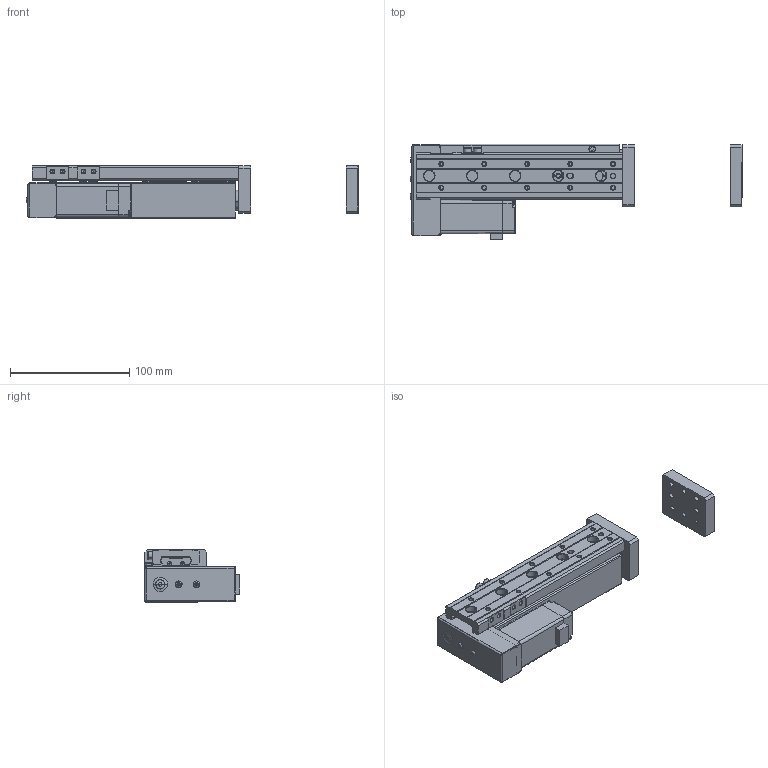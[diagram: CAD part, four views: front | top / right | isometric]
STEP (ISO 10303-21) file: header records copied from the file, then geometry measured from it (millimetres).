
FILE_DESCRIPTION (( 'STEP AP203' ), '1' );
FILE_NAME ('CSS12L-xx-90-xx-CSO-xx-xx.STEP', '2024-10-18T06:22:24', ( 'Windows User' ), ( 'P R C' ), 'SwSTEP 2.0', 'SolidWorks 2018', '' );
FILE_SCHEMA (( 'CONFIG_CONTROL_DESIGN' ));
Length unit declared in the file: millimetre
Products named in the file (18): 复件 RB-WS22015-P006  连接件^SS12L-1.5-90（客用）; 复件 28闭环步进电机-客用3D^SS12L-1.5-90（客用）; 复件 RB-WS22015-P002  安装板^SS12L-1.5-90（客用）; 复件 RB-WS22015-B003-02  BLOCK（MXQ12-75,100滑块组件装配体）^SS12L-1.5-90（客用）; 复件 RB-WS22015-P001-09  FRAME（ST=90）^SS12L-1.5-90（客用）; CSS12L-xx-90-xx-CSO-xx-xx; 复件 销钉3-7^SS12L-1.5-90（客用）; 复件 内六角杯头螺钉M3-6^SS12L-1.5-90（客用）; 复件 RB-ES23002-B010  堵头塞子（φ8T型）^SS12L-1.5-90（客用）; 复件 内六角杯头螺钉M4-12^SS12L-1.5-90（客用）; 复件 内六角杯头螺钉M4-8^SS12L-1.5-90（客用）; 复件 十字槽盘头螺钉YM3-6^SS12L-1.5-90（客用）; 复件 内六角杯头螺钉M4-10^SS12L-1.5-90（客用）; 复件 RB-ES23002-P007-01  限位块^SS12L-1.5-90（客用）; 复件 内六角圆头螺钉M3^SS12L-1.5-90（客用）; 复件 COVER END^SS12L-1.5-90（客用）; 复件 RB-WS22015-B003-01  RAIL（MXQ12-100滑台）^SS12L-1.5-90（客用）; 复件 MOTOR PLATE^SS12L-1.5-90（客用）
Assembly tree (26 placements, depth 2):
  CSS12L-xx-90-xx-CSO-xx-xx
    复件 RB-WS22015-P001-09  FRAME（ST=90）^SS12L-1.5-90（客用）
    复件 RB-WS22015-P002  安装板^SS12L-1.5-90（客用）  x2
    复件 RB-WS22015-P006  连接件^SS12L-1.5-90（客用）
    复件 RB-WS22015-B003-01  RAIL（MXQ12-100滑台）^SS12L-1.5-90（客用）
    复件 RB-WS22015-B003-02  BLOCK（MXQ12-75,100滑块组件装配体）^SS12L-1.5-90（客用）  x2
    复件 内六角杯头螺钉M4-12^SS12L-1.5-90（客用）  x2
    复件 内六角杯头螺钉M3-6^SS12L-1.5-90（客用）  x2
    复件 内六角杯头螺钉M4-10^SS12L-1.5-90（客用）
    复件 十字槽盘头螺钉YM3-6^SS12L-1.5-90（客用）
    复件 销钉3-7^SS12L-1.5-90（客用）  x4
    复件 内六角杯头螺钉M4-8^SS12L-1.5-90（客用）  x2
    复件 RB-ES23002-P007-01  限位块^SS12L-1.5-90（客用）
    复件 RB-ES23002-B010  堵头塞子（φ8T型）^SS12L-1.5-90（客用）
    复件 28闭环步进电机-客用3D^SS12L-1.5-90（客用）
    复件 COVER END^SS12L-1.5-90（客用）
    复件 MOTOR PLATE^SS12L-1.5-90（客用）
    复件 内六角圆头螺钉M3^SS12L-1.5-90（客用）  x2
Bounding box: 278.15 x 79.95 x 44 mm (x, y, z)
Volume: 370847.8 mm3; surface area: 105722.2 mm2
Topology: 88 solids, 88 shells, 1941 faces, 4863 edges, 2913 vertices
Faces by surface type: plane 833, cylinder 524, cone 388, bspline 156, torus 34, sphere 6
Entity records: 42702 total; most frequent: CARTESIAN_POINT 11270, DIRECTION 6213, ORIENTED_EDGE 5958, EDGE_CURVE 2979, AXIS2_PLACEMENT_3D 2259, VERTEX_POINT 1877, VECTOR 1695, LINE 1695
